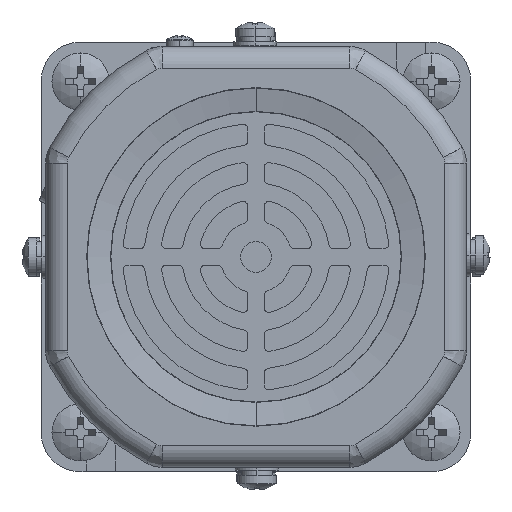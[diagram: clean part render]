
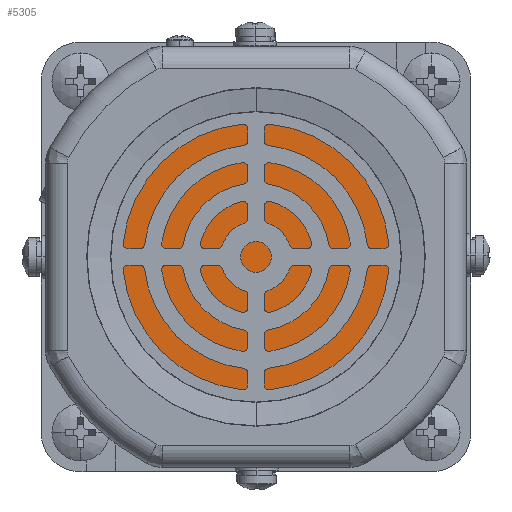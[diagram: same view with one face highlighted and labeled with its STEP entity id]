
A CAD part, left-side view. The second image highlights one B-rep face of the part: STEP entity #5305.
In plain terms, the highlighted planar face has unit normal (-1, 0, 0).
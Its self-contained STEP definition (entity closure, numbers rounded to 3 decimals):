
#4295 = DIRECTION ( 'NONE',  ( 0., -1., 0. ) ) ;
#5305 = ADVANCED_FACE ( 'NONE', ( #10509 ), #23078, .F. ) ;
#6537 = AXIS2_PLACEMENT_3D ( 'NONE', #19960, #32524, #4295 ) ;
#7424 = DIRECTION ( 'NONE',  ( 1., 0., 0. ) ) ;
#10509 = FACE_OUTER_BOUND ( 'NONE', #18983, .T. ) ;
#11625 = AXIS2_PLACEMENT_3D ( 'NONE', #35658, #7424, #20001 ) ;
#13978 = CARTESIAN_POINT ( 'NONE',  ( 2487.292, -775.254, 0. ) ) ;
#17030 = CIRCLE ( 'NONE', #40031, 38.4 ) ;
#17578 = EDGE_CURVE ( 'NONE', #35192, #19927, #17030, .T. ) ;
#18983 = EDGE_LOOP ( 'NONE', ( #32479, #26060 ) ) ;
#19927 = VERTEX_POINT ( 'NONE', #25786 ) ;
#19960 = CARTESIAN_POINT ( 'NONE',  ( 2487.292, -775.254, 0. ) ) ;
#20001 = DIRECTION ( 'NONE',  ( 0., 1., 0. ) ) ;
#21884 = EDGE_CURVE ( 'NONE', #19927, #35192, #24302, .T. ) ;
#23078 = PLANE ( 'NONE',  #11625 ) ;
#24302 = CIRCLE ( 'NONE', #6537, 38.4 ) ;
#25786 = CARTESIAN_POINT ( 'NONE',  ( 2487.292, -736.854, 0. ) ) ;
#26060 = ORIENTED_EDGE ( 'NONE', *, *, #21884, .T. ) ;
#26552 = DIRECTION ( 'NONE',  ( -1., 0., 0. ) ) ;
#32479 = ORIENTED_EDGE ( 'NONE', *, *, #17578, .T. ) ;
#32524 = DIRECTION ( 'NONE',  ( -1., 0., 0. ) ) ;
#34485 = CARTESIAN_POINT ( 'NONE',  ( 2487.292, -813.654, 0. ) ) ;
#35192 = VERTEX_POINT ( 'NONE', #34485 ) ;
#35658 = CARTESIAN_POINT ( 'NONE',  ( 2487.292, -775.254, 0. ) ) ;
#39122 = DIRECTION ( 'NONE',  ( 0., -1., 0. ) ) ;
#40031 = AXIS2_PLACEMENT_3D ( 'NONE', #13978, #26552, #39122 ) ;
